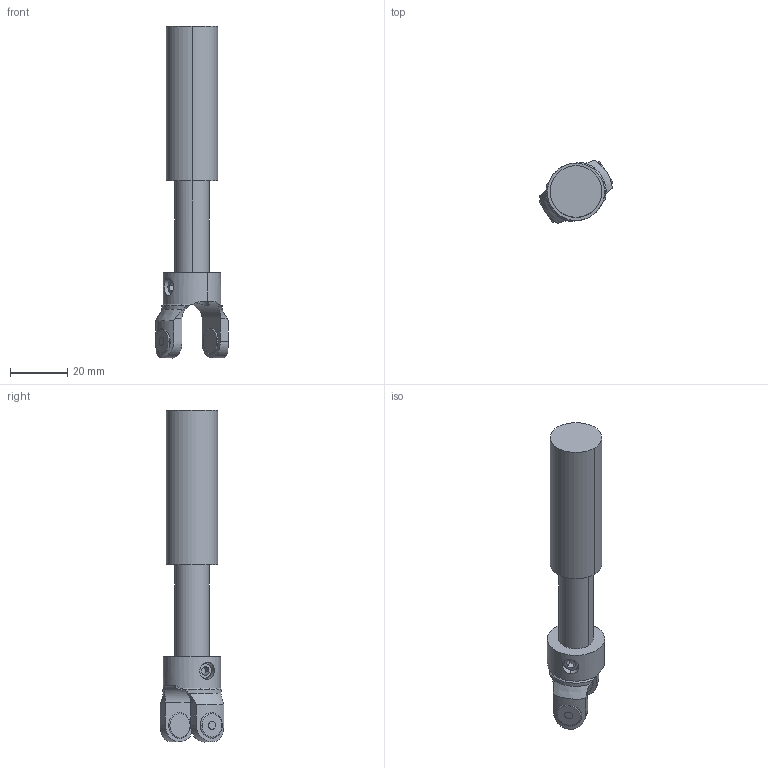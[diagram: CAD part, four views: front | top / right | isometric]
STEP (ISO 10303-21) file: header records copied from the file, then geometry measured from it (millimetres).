
FILE_DESCRIPTION (( 'STEP AP214' ), '1' );
FILE_NAME ('IRB360_X-1130-STD-4D_rev03_U_CAD.STEP', '2023-12-04T08:00:39', ( '' ), ( '' ), 'SwSTEP 2.0', 'SolidWorks 2022', '' );
FILE_SCHEMA (( 'AUTOMOTIVE_DESIGN' ));
Length unit declared in the file: millimetre
Products named in the file (1): IRB360_X-1130-STD-4D_rev03_U_CAD
Bounding box: 25.74 x 22.18 x 115.8 mm (x, y, z)
Volume: 22311.5 mm3; surface area: 8757.2 mm2
Topology: 5 solids, 5 shells, 97 faces, 228 edges, 141 vertices
Faces by surface type: cylinder 42, plane 27, torus 16, cone 12
Entity records: 3470 total; most frequent: CARTESIAN_POINT 1185, DIRECTION 468, ORIENTED_EDGE 452, EDGE_CURVE 226, AXIS2_PLACEMENT_3D 194, VERTEX_POINT 141, EDGE_LOOP 109, FACE_OUTER_BOUND 97
